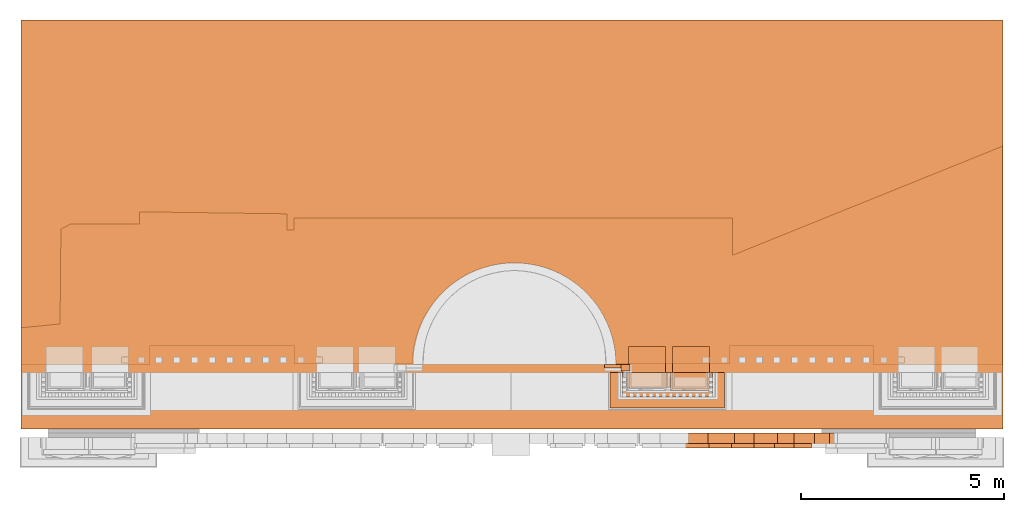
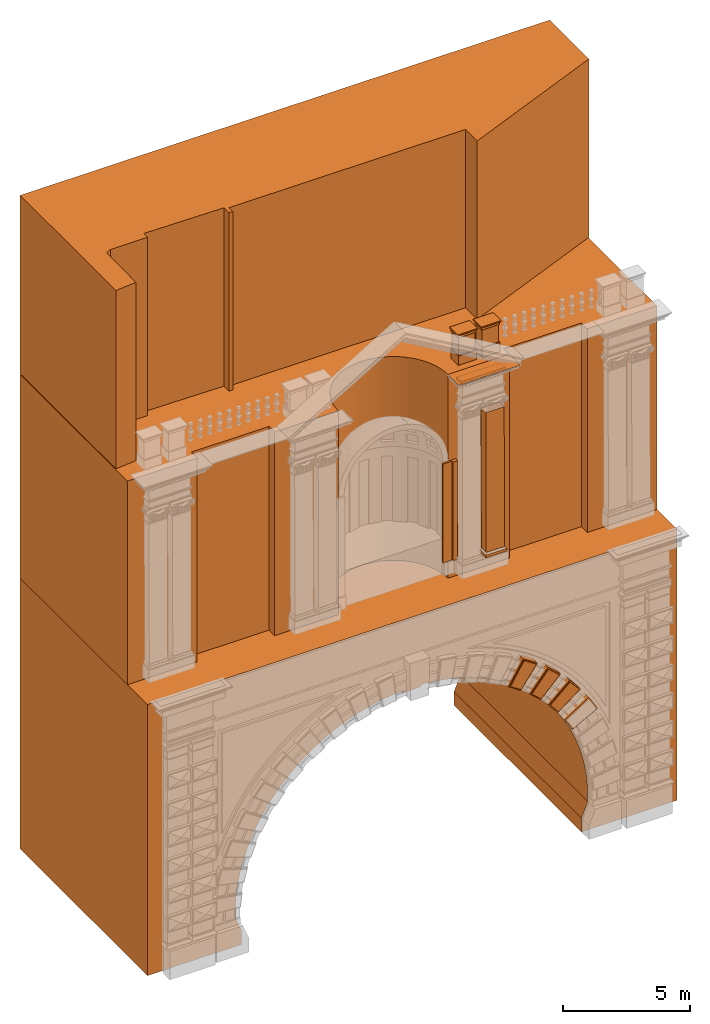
# One storey, part 10 of 44: 18 proxies.
"""IFC2X3 building model written with IfcOpenShell, lengths in metres."""

from ifc_helpers import new_model, entity, si_unit, converted_unit, derived_unit, direction, frame, frame_2d, origin, place, context, subcontext, project, spatial, polyline, circle_curve, parameter, trimmed, segment, composite_curve, rectangle, outline, extrude, faceted_brep, source, transform, mapped, material, type_object, type_shapes, element, save


model = new_model("IFC2X3")

# Units and contexts
model_context = context("Model", 3, precision=1e-05, world=origin(), true_north=direction((6.12303176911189e-17, 1.0)))
body_context = subcontext(model_context, "Body", "Model", "MODEL_VIEW")
ifc_project = project(units=[si_unit("LENGTHUNIT", "METRE"), si_unit("AREAUNIT", "SQUARE_METRE"), si_unit("VOLUMEUNIT", "CUBIC_METRE"), converted_unit("PLANEANGLEUNIT", "DEGREE", entity("IfcRatioMeasure", 0.0174532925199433), si_unit("PLANEANGLEUNIT", "RADIAN"), dimensions=[0, 0, 0, 0, 0, 0, 0]), si_unit("MASSUNIT", "GRAM", prefix="KILO"), derived_unit("MASSDENSITYUNIT", [(si_unit("MASSUNIT", "GRAM", prefix="KILO"), 1), (si_unit("LENGTHUNIT", "METRE"), -3)]), si_unit("TIMEUNIT", "SECOND"), si_unit("FREQUENCYUNIT", "HERTZ"), si_unit("THERMODYNAMICTEMPERATUREUNIT", "DEGREE_CELSIUS"), derived_unit("THERMALTRANSMITTANCEUNIT", [(si_unit("MASSUNIT", "GRAM", prefix="KILO"), 1), (si_unit("THERMODYNAMICTEMPERATUREUNIT", "KELVIN"), -1), (si_unit("TIMEUNIT", "SECOND"), -3)]), derived_unit("VOLUMETRICFLOWRATEUNIT", [(si_unit("LENGTHUNIT", "METRE"), 3), (si_unit("TIMEUNIT", "SECOND"), -1)]), si_unit("ELECTRICCURRENTUNIT", "AMPERE"), si_unit("ELECTRICVOLTAGEUNIT", "VOLT"), si_unit("POWERUNIT", "WATT"), si_unit("FORCEUNIT", "NEWTON", prefix="KILO"), si_unit("ILLUMINANCEUNIT", "LUX"), si_unit("LUMINOUSFLUXUNIT", "LUMEN"), si_unit("LUMINOUSINTENSITYUNIT", "CANDELA"), derived_unit("USERDEFINED", [(si_unit("MASSUNIT", "GRAM", prefix="KILO"), -1), (si_unit("LENGTHUNIT", "METRE"), -2), (si_unit("TIMEUNIT", "SECOND"), 3), (si_unit("LUMINOUSFLUXUNIT", "LUMEN"), 1)]), derived_unit("LINEARVELOCITYUNIT", [(si_unit("LENGTHUNIT", "METRE"), 1), (si_unit("TIMEUNIT", "SECOND"), -1)]), si_unit("PRESSUREUNIT", "PASCAL"), derived_unit("USERDEFINED", [(si_unit("LENGTHUNIT", "METRE"), -2), (si_unit("MASSUNIT", "GRAM", prefix="KILO"), 1), (si_unit("TIMEUNIT", "SECOND"), -2)])], contexts=[model_context])

# Site, building, storey
site_placement = place(None, origin())
site = spatial("IfcSite", under=ifc_project, at=site_placement, Name="Default", CompositionType="ELEMENT")
building_placement = place(site_placement, origin())
building = spatial("IfcBuilding", under=site, at=building_placement, CompositionType="ELEMENT")
storey_placement = place(building_placement, origin())
storey = spatial("IfcBuildingStorey", under=building, at=storey_placement, Name="Livello 1", CompositionType="ELEMENT", Elevation=0.0)

# Proxies
ifc_material_1 = material(Name="Piperno")
building_element_proxy_type_1 = type_object("IfcBuildingElementProxyType", Name="Piedistallo_balaustra terrazzo", PredefinedType="NOTDEFINED", material=ifc_material_1)
shared_shape_1 = source(origin(), body_context, "Body", "Brep", [
    faceted_brep([(0.046908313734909, 0.593560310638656, 1.29866715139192), (0.046908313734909, 0.593560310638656, 1.3744703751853), (0.456758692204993, 0.593560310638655, 1.3744703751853), (0.866608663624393, 0.593560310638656, 1.3744703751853), (0.866608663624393, 0.593560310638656, 1.29866715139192), (0.0819082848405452, 0.558560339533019, 1.29871212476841), (0.831608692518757, 0.558560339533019, 1.29871212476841), (0.0819082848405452, 0.558560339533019, 1.44170839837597), (0.831608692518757, 0.558560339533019, 1.44170839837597), (0.0453685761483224, 0.595100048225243, 1.39169607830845), (0.547469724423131, 0.594325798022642, 1.38754596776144), (0.456758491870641, 0.617051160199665, 1.4288318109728), (0.501016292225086, 0.605457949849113, 1.41575397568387), (0.0299184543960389, 0.610550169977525, 1.42233581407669), (0.896533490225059, 0.623485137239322, 1.43381545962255), (0.883598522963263, 0.610550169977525, 1.42233581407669), (0.0395835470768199, 0.600885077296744, 1.40799420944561), (0.456758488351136, 0.597554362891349, 1.40023980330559), (0.477394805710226, 0.627932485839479, 1.43661435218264), (0.016983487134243, 0.623485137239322, 1.43381545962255), (0.622237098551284, 0.638873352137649, 1.44170839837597), (0.911921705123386, 0.638873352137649, 1.44170839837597), (0.332552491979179, 0.638873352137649, 1.44170839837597), (0.0015952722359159, 0.638873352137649, 1.44170839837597), (0.873933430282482, 0.600885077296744, 1.40799420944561), (0.86814840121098, 0.595100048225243, 1.39169607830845), (0.866608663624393, 0.0469083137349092, 1.3744703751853), (0.866608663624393, 0.0469083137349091, 1.29866715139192), (0.831608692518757, 0.0819082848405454, 1.29871212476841), (0.831608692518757, 0.0819082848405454, 1.44170839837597), (0.889974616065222, 0.32023431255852, 1.42872239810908), (0.90037284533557, 0.325542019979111, 1.43625922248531), (0.911921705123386, 0.291279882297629, 1.44170839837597), (0.911921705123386, 0.00159527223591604, 1.44170839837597), (0.883598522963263, 0.02991845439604, 1.42233581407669), (0.896533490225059, 0.0169834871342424, 1.43381545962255), (0.873933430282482, 0.0395835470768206, 1.40799420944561), (0.86814840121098, 0.0453685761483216, 1.39169607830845), (0.456758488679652, 0.0469083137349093, 1.3744703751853), (0.046908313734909, 0.0469083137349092, 1.3744703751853), (0.046908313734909, 0.0469083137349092, 1.29866715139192), (0.0819082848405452, 0.0819082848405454, 1.29871212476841), (0.0819082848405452, 0.0819082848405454, 1.44170839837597), (0.366047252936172, 0.0461428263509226, 1.38754596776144), (0.456758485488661, 0.0234174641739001, 1.4288318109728), (0.412500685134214, 0.0350106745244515, 1.41575397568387), (0.016983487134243, 0.0169834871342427, 1.43381545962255), (0.0299184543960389, 0.02991845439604, 1.42233581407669), (0.456758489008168, 0.0429142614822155, 1.40023980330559), (0.436122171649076, 0.0125361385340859, 1.43661435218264), (0.291279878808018, 0.00159527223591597, 1.44170839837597), (0.0015952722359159, 0.00159527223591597, 1.44170839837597), (0.580964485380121, 0.00159527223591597, 1.44170839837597), (0.0395835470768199, 0.0395835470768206, 1.40799420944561), (0.0453685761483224, 0.0453685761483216, 1.39169607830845), (0.0015952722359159, 0.349188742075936, 1.44170839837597), (0.0235423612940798, 0.320234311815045, 1.42872239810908), (0.0131441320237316, 0.314926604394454, 1.43625922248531)], [[[0, 1, 2, 3, 4]], [[5, 0, 4, 6]], [[7, 5, 6, 8]], [[9, 10, 2]], [[11, 12, 13]], [[14, 15, 11]], [[16, 12, 17]], [[12, 11, 15]], [[18, 11, 19]], [[20, 21, 14]], [[22, 19, 23]], [[12, 15, 24]], [[16, 13, 12]], [[17, 10, 9]], [[25, 3, 10]], [[9, 2, 1]], [[17, 9, 16]], [[14, 18, 20]], [[25, 17, 24]], [[17, 25, 10]], [[11, 13, 19]], [[22, 18, 19]], [[24, 17, 12]], [[11, 18, 14]], [[22, 20, 18]], [[2, 10, 3]], [[4, 3, 26, 27]], [[6, 4, 27, 28]], [[8, 6, 28, 29]], [[30, 15, 14]], [[31, 21, 32, 33]], [[14, 31, 30]], [[34, 30, 35]], [[34, 36, 24, 15]], [[21, 31, 14]], [[30, 31, 35]], [[37, 26, 3, 25]], [[36, 37, 25, 24]], [[15, 30, 34]], [[31, 33, 35]], [[27, 26, 38, 39, 40]], [[28, 27, 40, 41]], [[29, 28, 41, 42]], [[37, 43, 38]], [[44, 45, 34]], [[46, 47, 44]], [[36, 45, 48]], [[45, 44, 47]], [[49, 44, 35]], [[50, 51, 46]], [[52, 35, 33]], [[45, 47, 53]], [[36, 34, 45]], [[48, 43, 37]], [[54, 39, 43]], [[37, 38, 26]], [[48, 37, 36]], [[46, 49, 50]], [[54, 48, 53]], [[48, 54, 43]], [[44, 34, 35]], [[52, 49, 35]], [[53, 48, 45]], [[44, 49, 46]], [[52, 50, 49]], [[38, 43, 39]], [[40, 39, 1, 0]], [[41, 40, 0, 5]], [[42, 41, 5, 7]], [[33, 29, 42]], [[29, 33, 8]], [[8, 33, 32]], [[42, 52, 33]], [[8, 32, 21]], [[8, 21, 7]], [[7, 21, 20]], [[7, 20, 22]], [[7, 22, 23]], [[7, 23, 55]], [[7, 55, 51]], [[51, 42, 7]], [[42, 51, 50]], [[42, 50, 52]], [[56, 47, 46]], [[57, 51, 55, 23]], [[46, 57, 56]], [[13, 56, 19]], [[13, 16, 53, 47]], [[51, 57, 46]], [[56, 57, 19]], [[9, 1, 39, 54]], [[16, 9, 54, 53]], [[47, 56, 13]], [[57, 23, 19]]]),
    faceted_brep([(0.911921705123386, 0.00159527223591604, 1.44170839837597), (0.911921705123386, 0.00159527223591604, 1.49643867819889), (0.0015952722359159, 0.00159527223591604, 1.49643867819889), (0.0015952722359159, 0.00159527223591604, 1.44170839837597), (0.911921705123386, 0.638873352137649, 1.44170839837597), (0.0015952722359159, 0.638873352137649, 1.44170839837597), (0.0015952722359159, 0.638873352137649, 1.49643867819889), (0.911921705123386, 0.638873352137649, 1.49643867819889)], [[[0, 1, 2, 3]], [[4, 5, 6, 7]], [[1, 0, 4, 7]], [[2, 1, 7, 6]], [[3, 2, 6, 5]], [[0, 3, 5, 4]]]),
    faceted_brep([(0.870792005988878, 0.01875005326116, 0.0), (0.870792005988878, 0.01875005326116, 0.44582479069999), (0.0423439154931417, 0.01875005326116, 0.44582479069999), (0.0423439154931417, 0.01875005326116, 0.0), (0.870792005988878, 0.609374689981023, 0.0), (0.0423439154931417, 0.609374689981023, 0.0), (0.0423439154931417, 0.609374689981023, 0.44582479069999), (0.870792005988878, 0.609374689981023, 0.44582479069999)], [[[0, 1, 2, 3]], [[4, 5, 6, 7]], [[1, 0, 4, 7]], [[2, 1, 7, 6]], [[3, 2, 6, 5]], [[0, 3, 5, 4]]]),
    faceted_brep([(0.0794676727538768, 0.079467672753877, 0.44582479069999), (0.834049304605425, 0.079467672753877, 0.445824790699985), (0.834049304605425, 0.079467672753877, 1.29967859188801), (0.0794676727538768, 0.079467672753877, 1.29967859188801), (0.0794676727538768, 0.561000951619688, 0.44582479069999), (0.0794676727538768, 0.561000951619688, 1.29967859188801), (0.834049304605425, 0.561000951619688, 1.29967859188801), (0.834049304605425, 0.561000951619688, 0.445824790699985)], [[[0, 1, 2, 3]], [[4, 5, 6, 7]], [[2, 1, 7, 6]], [[3, 2, 6, 5]], [[0, 3, 5, 4]], [[1, 0, 4, 7]]]),
])
type_shapes(building_element_proxy_type_1, [shared_shape_1])
for number, where, name in (
    (1, (3.89591460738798, 1.25399804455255, 23.314418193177), "Piedistallo_balaustra terrazzo:Piedistallo_balaustra terrazzo"),
    (2, (2.81591460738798, 1.25399804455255, 23.314418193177), "Piedistallo_balaustra terrazzo:Piedistallo_balaustra terrazzo"),
):
    element("IfcBuildingElementProxy", number, at=place(storey_placement, frame(where)), inside=storey, type_object=building_element_proxy_type_1, material=ifc_material_1, Name=name, ObjectType="Piedistallo_balaustra terrazzo", context=body_context, shape_type="MappedRepresentation", body=[
        mapped(shared_shape_1, transform((0.0, 0.0, 0.0), scale=1.0)),
    ])
building_element_proxy_type_2 = type_object("IfcBuildingElementProxyType", Name="Estrusione galleria", PredefinedType="NOTDEFINED")
shared_shape_2 = source(origin(), body_context, "Body", "SweptSolid", [
    extrude(outline(composite_curve([segment(trimmed(circle_curve(frame_2d((2.85795601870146, -0.00844056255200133), x_axis=(0.0, -1.0)), 8.03412329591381), [parameter(272.969747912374)], [parameter(360.0)], True, "PARAMETER"), False, "CONTINUOUS"), segment(polyline([(-5.16537768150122, -0.424677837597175), (-5.06507157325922, -0.422148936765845)]), True, "CONTINUOUS"), segment(polyline([(-5.06507157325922, -0.422148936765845), (-5.06507157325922, 0.405267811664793)]), True, "CONTINUOUS"), segment(polyline([(-5.06507157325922, 0.405267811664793), (-5.16537768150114, 0.407796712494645)]), True, "CONTINUOUS"), segment(trimmed(circle_curve(frame_2d((2.85795601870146, -0.00844056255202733), x_axis=(0.0, -1.0)), 8.03412329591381), [parameter(180.000000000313)], [parameter(267.030252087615)], True, "PARAMETER"), False, "CONTINUOUS"), segment(polyline([(2.85795601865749, 8.02568273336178), (3.12672448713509, 8.02568273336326)]), True, "CONTINUOUS"), segment(polyline([(3.12672448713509, 8.02568273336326), (3.83033878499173, 7.73907825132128)]), True, "CONTINUOUS"), segment(polyline([(3.83033878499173, 7.73907825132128), (4.49408774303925, 7.7390782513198)]), True, "CONTINUOUS"), segment(polyline([(4.49408774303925, 7.7390782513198), (4.49408774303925, 12.0972862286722)]), True, "CONTINUOUS"), segment(polyline([(4.49408774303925, 12.0972862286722), (-8.57274552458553, 12.0972862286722)]), True, "CONTINUOUS"), segment(polyline([(-8.57274552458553, 12.0972862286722), (-8.57274552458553, -12.0466428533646)]), True, "CONTINUOUS"), segment(polyline([(-8.57274552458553, -12.0466428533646), (4.49408774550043, -12.0466428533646)]), True, "CONTINUOUS"), segment(polyline([(4.49408774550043, -12.0466428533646), (4.49408774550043, -7.75595937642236)]), True, "CONTINUOUS"), segment(polyline([(4.49408774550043, -7.75595937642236), (3.8303387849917, -7.75595937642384)]), True, "CONTINUOUS"), segment(polyline([(3.8303387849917, -7.75595937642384), (3.12672448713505, -8.04256385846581)]), True, "CONTINUOUS"), segment(polyline([(3.12672448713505, -8.04256385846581), (2.8579560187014, -8.04256385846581)]), True, "CONTINUOUS")], self_intersect=False)), frame((-0.0761775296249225, -0.134467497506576, 4.49408774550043), z_axis=(0.0, -1.0, 0.0), x_axis=(0.0, 0.0, -1.0)), (0.0, 0.0, -1.0), 10.0605470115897),
])
type_shapes(building_element_proxy_type_2, [shared_shape_2])
proxy_1_placement = place(storey_placement, origin())
element("IfcBuildingElementProxy", 3, at=proxy_1_placement, inside=storey, type_object=building_element_proxy_type_2, Name="Galleria:Estrusione galleria", ObjectType="Estrusione galleria", context=body_context, shape_type="MappedRepresentation", body=[
    mapped(shared_shape_2, transform((0.0, 0.0, 0.0), scale=1.0)),
])
building_element_proxy_type_3 = type_object("IfcBuildingElementProxyType", Name="Galleria_2", PredefinedType="NOTDEFINED")
shared_shape_3 = source(origin(), body_context, "Body", "SweptSolid", [
    extrude(outline(polyline([(8.42750221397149, -4.70835692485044), (15.59662761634, -4.70835692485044), (16.7574317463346, -1.83526588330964), (-5.62842948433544, 7.2092091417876), (-8.46346742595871, 0.192244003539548), (-7.53896814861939, -0.0798220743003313), (-6.64363318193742, 2.07762909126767), (-6.37861188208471, 2.10059454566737), (-4.80239932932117, 1.46376333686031), (-4.68945808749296, 1.7433027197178), (-1.34667673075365, 0.338937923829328), (-1.50160691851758, -0.029839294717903), (-1.33715926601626, -0.0952623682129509), (-1.22389952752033, 0.185065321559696), (8.77274840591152, -3.85384261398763), (8.42750221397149, -4.70835692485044)])), frame((7.92594676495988, 3.90473148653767, 9.85344745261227), z_axis=(0.0, 0.0, 1.0), x_axis=(0.927183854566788, 0.374606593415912, 0.0)), (0.0, 0.0, 1.0), 8.59598181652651),
    extrude(outline(composite_curve([segment(polyline([(-7.13155493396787, -12.0828514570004), (1.34899207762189, -12.0828514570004)]), True, "CONTINUOUS"), segment(polyline([(1.34899207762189, -12.0828514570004), (1.34899207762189, -8.90281869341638)]), True, "CONTINUOUS"), segment(polyline([(1.34899207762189, -8.90281869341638), (0.885633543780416, -8.90281869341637)]), True, "CONTINUOUS"), segment(polyline([(0.885633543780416, -8.90281869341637), (0.885633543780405, -5.3565160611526)]), True, "CONTINUOUS"), segment(polyline([(0.885633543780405, -5.3565160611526), (1.33115184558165, -5.3565160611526)]), True, "CONTINUOUS"), segment(polyline([(1.33115184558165, -5.3565160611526), (1.33115184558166, -2.45020519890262)]), True, "CONTINUOUS"), segment(trimmed(circle_curve(frame_2d((1.34115184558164, 0.0497748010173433), x_axis=(0.0, 1.0)), 2.49999999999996), [parameter(0.229183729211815)], [parameter(179.770816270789)], True, "PARAMETER"), False, "CONTINUOUS"), segment(polyline([(1.33115184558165, 2.54975480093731), (1.33115184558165, 5.3425155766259)]), True, "CONTINUOUS"), segment(polyline([(1.33115184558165, 5.3425155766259), (0.885633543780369, 5.3425155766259)]), True, "CONTINUOUS"), segment(polyline([(0.885633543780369, 5.3425155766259), (0.885633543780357, 8.88881820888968)]), True, "CONTINUOUS"), segment(polyline([(0.885633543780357, 8.88881820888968), (1.34899207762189, 8.88881820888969)]), True, "CONTINUOUS"), segment(polyline([(1.34899207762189, 8.88881820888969), (1.34899207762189, 12.0610776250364)]), True, "CONTINUOUS"), segment(polyline([(1.34899207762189, 12.0610776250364), (-7.13155493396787, 12.0610776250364)]), True, "CONTINUOUS"), segment(polyline([(-7.13155493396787, 12.0610776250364), (-7.13155493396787, -12.0828514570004)]), True, "CONTINUOUS")], self_intersect=False)), frame((12.0828514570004, 1.34899207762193, 0.0), z_axis=(0.0, 0.0, 1.0), x_axis=(0.0, -1.0, 0.0)), (0.0, 0.0, 1.0), 9.81844987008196),
])
type_shapes(building_element_proxy_type_3, [shared_shape_3])
proxy_2_placement = place(storey_placement, frame((-12.129560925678, 1.44553250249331, 13.066833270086)))
element("IfcBuildingElementProxy", 4, at=proxy_2_placement, inside=storey, type_object=building_element_proxy_type_3, Name="Galleria_2:Galleria_2", ObjectType="Galleria_2", context=body_context, shape_type="MappedRepresentation", body=[
    mapped(shared_shape_3, transform((0.0, 0.0, 0.0), scale=1.0)),
])
proxy_3_placement = place(storey_placement, frame((4.09240601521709, -0.554467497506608, 8.12137108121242)))
element("IfcBuildingElementProxy", 5, at=proxy_3_placement, inside=storey, material=ifc_material_1, Name="Stratigrafia", context=body_context, shape_type="SweptSolid", body=[
    extrude(outline(composite_curve([segment(trimmed(circle_curve(frame_2d((-1.33916111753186, 8.57467506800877), x_axis=(1.0, 0.0)), 9.33830961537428), [parameter(276.479772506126)], [parameter(281.273302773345)], True, "PARAMETER"), True, "CONTINUOUS"), segment(polyline([(0.486377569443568, -0.58345983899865), (0.231423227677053, 0.695563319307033)]), True, "CONTINUOUS"), segment(trimmed(circle_curve(frame_2d((-1.33916111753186, 8.57467506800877), x_axis=(1.0, 0.0)), 8.03412329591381), [parameter(276.479772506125)], [parameter(281.273302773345)], True, "PARAMETER"), False, "CONTINUOUS"), segment(polyline([(-0.432490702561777, 0.591875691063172), (-0.285310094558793, -0.703979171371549)]), True, "CONTINUOUS")], self_intersect=False)), frame((0.64242282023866, 0.0, 0.730092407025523), z_axis=(0.0, 1.0, 0.0), x_axis=(0.907826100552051, 0.0, -0.419346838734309)), (0.0, 0.0, 1.0), 0.32),
])
proxy_4_placement = place(storey_placement, frame((4.16101678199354, -0.594467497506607, 8.19109902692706)))
element("IfcBuildingElementProxy", 6, at=proxy_4_placement, inside=storey, material=ifc_material_1, Name="Stratigrafia", context=body_context, shape_type="SweptSolid", body=[
    extrude(outline(composite_curve([segment(trimmed(circle_curve(frame_2d((-1.33809374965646, 8.5733681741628), x_axis=(1.0, 0.0)), 9.28496378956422), [parameter(276.782159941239)], [parameter(280.96038991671)], True, "PARAMETER"), True, "CONTINUOUS"), segment(polyline([(0.427259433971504, -0.542227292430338), (0.191822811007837, 0.638881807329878)]), True, "CONTINUOUS"), segment(trimmed(circle_curve(frame_2d((-1.33947047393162, 8.57665166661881), x_axis=(1.0, 0.0)), 8.08412329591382), [parameter(276.834147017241)], [parameter(280.918928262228)], True, "PARAMETER"), False, "CONTINUOUS"), segment(polyline([(-0.377494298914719, 0.549967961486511), (-0.241587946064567, -0.646622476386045)]), True, "CONTINUOUS")], self_intersect=False)), frame((0.574921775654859, 0.0, 0.66202914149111), z_axis=(0.0, 1.0, 0.0), x_axis=(0.907826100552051, 0.0, -0.419346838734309)), (0.0, 0.0, 1.0), 0.11),
])
proxy_5_placement = place(storey_placement, frame((5.9126971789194, -0.554467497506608, 6.45986862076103)))
element("IfcBuildingElementProxy", 7, at=proxy_5_placement, inside=storey, material=ifc_material_1, Name="Stratigrafia", context=body_context, shape_type="SweptSolid", body=[
    extrude(outline(composite_curve([segment(trimmed(circle_curve(frame_2d((-1.33916111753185, 8.57467506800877), x_axis=(1.0, 0.0)), 9.33830961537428), [parameter(276.479772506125)], [parameter(281.273302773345)], True, "PARAMETER"), True, "CONTINUOUS"), segment(polyline([(0.486377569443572, -0.58345983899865), (0.231423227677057, 0.695563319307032)]), True, "CONTINUOUS"), segment(trimmed(circle_curve(frame_2d((-1.33916111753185, 8.57467506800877), x_axis=(1.0, 0.0)), 8.03412329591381), [parameter(276.479772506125)], [parameter(281.273302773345)], True, "PARAMETER"), False, "CONTINUOUS"), segment(polyline([(-0.432490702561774, 0.591875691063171), (-0.285310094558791, -0.703979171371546)]), True, "CONTINUOUS")], self_intersect=False)), frame((0.718162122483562, 0.0, 0.675030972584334), z_axis=(0.0, 1.0, 0.0), x_axis=(0.746986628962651, 0.0, -0.664839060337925)), (0.0, 0.0, 1.0), 0.32),
])
proxy_6_placement = place(storey_placement, frame((5.98318585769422, -0.594467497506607, 6.52980767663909)))
element("IfcBuildingElementProxy", 8, at=proxy_6_placement, inside=storey, material=ifc_material_1, Name="Stratigrafia", context=body_context, shape_type="SweptSolid", body=[
    extrude(outline(composite_curve([segment(trimmed(circle_curve(frame_2d((-1.33809374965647, 8.57336817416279), x_axis=(1.0, 0.0)), 9.28496378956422), [parameter(276.782159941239)], [parameter(280.96038991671)], True, "PARAMETER"), True, "CONTINUOUS"), segment(polyline([(0.427259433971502, -0.542227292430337), (0.191822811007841, 0.638881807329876)]), True, "CONTINUOUS"), segment(trimmed(circle_curve(frame_2d((-1.33947047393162, 8.57665166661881), x_axis=(1.0, 0.0)), 8.08412329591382), [parameter(276.834147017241)], [parameter(280.918928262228)], True, "PARAMETER"), False, "CONTINUOUS"), segment(polyline([(-0.377494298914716, 0.54996796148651), (-0.241587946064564, -0.646622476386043)]), True, "CONTINUOUS")], self_intersect=False)), frame((0.649218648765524, 0.0, 0.606362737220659), z_axis=(0.0, 1.0, 0.0), x_axis=(0.746986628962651, 0.0, -0.664839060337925)), (0.0, 0.0, 1.0), 0.11),
])
proxy_7_placement = place(storey_placement, frame((6.65978239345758, -0.554467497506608, 5.42098436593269)))
element("IfcBuildingElementProxy", 9, at=proxy_7_placement, inside=storey, material=ifc_material_1, Name="Stratigrafia", context=body_context, shape_type="SweptSolid", body=[
    extrude(outline(composite_curve([segment(trimmed(circle_curve(frame_2d((-1.33916111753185, 8.57467506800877), x_axis=(1.0, 0.0)), 9.33830961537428), [parameter(276.479772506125)], [parameter(281.273302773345)], True, "PARAMETER"), True, "CONTINUOUS"), segment(polyline([(0.486377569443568, -0.583459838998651), (0.231423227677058, 0.695563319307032)]), True, "CONTINUOUS"), segment(trimmed(circle_curve(frame_2d((-1.33916111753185, 8.57467506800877), x_axis=(1.0, 0.0)), 8.03412329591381), [parameter(276.479772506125)], [parameter(281.273302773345)], True, "PARAMETER"), False, "CONTINUOUS"), segment(polyline([(-0.432490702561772, 0.591875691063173), (-0.285310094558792, -0.703979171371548)]), True, "CONTINUOUS")], self_intersect=False)), frame((0.73322890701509, 0.0, 0.624095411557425), z_axis=(0.0, 1.0, 0.0), x_axis=(0.639045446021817, 0.0, -0.769168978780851)), (0.0, 0.0, 1.0), 0.32),
])
proxy_8_placement = place(storey_placement, frame((5.06335172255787, -0.554467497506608, 7.35228536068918)))
element("IfcBuildingElementProxy", 10, at=proxy_8_placement, inside=storey, material=ifc_material_1, Name="Stratigrafia", context=body_context, shape_type="SweptSolid", body=[
    extrude(outline(composite_curve([segment(trimmed(circle_curve(frame_2d((-1.33916111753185, 8.57467506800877), x_axis=(1.0, 0.0)), 9.33830961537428), [parameter(276.479772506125)], [parameter(281.273302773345)], True, "PARAMETER"), True, "CONTINUOUS"), segment(polyline([(0.486377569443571, -0.583459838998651), (0.231423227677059, 0.695563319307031)]), True, "CONTINUOUS"), segment(trimmed(circle_curve(frame_2d((-1.33916111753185, 8.57467506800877), x_axis=(1.0, 0.0)), 8.03412329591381), [parameter(276.479772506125)], [parameter(281.273302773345)], True, "PARAMETER"), False, "CONTINUOUS"), segment(polyline([(-0.432490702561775, 0.591875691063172), (-0.28531009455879, -0.703979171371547)]), True, "CONTINUOUS")], self_intersect=False)), frame((0.686929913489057, 0.0, 0.710801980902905), z_axis=(0.0, 1.0, 0.0), x_axis=(0.838129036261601, 0.0, -0.545472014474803)), (0.0, 0.0, 1.0), 0.32),
])
proxy_9_placement = place(storey_placement, frame((5.13364275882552, -0.594467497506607, 7.42288060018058)))
element("IfcBuildingElementProxy", 11, at=proxy_9_placement, inside=storey, material=ifc_material_1, Name="Stratigrafia", context=body_context, shape_type="SweptSolid", body=[
    extrude(outline(composite_curve([segment(trimmed(circle_curve(frame_2d((-1.33809374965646, 8.5733681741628), x_axis=(1.0, 0.0)), 9.28496378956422), [parameter(276.782159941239)], [parameter(280.96038991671)], True, "PARAMETER"), True, "CONTINUOUS"), segment(polyline([(0.427259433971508, -0.54222729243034), (0.191822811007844, 0.638881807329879)]), True, "CONTINUOUS"), segment(trimmed(circle_curve(frame_2d((-1.33947047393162, 8.57665166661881), x_axis=(1.0, 0.0)), 8.08412329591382), [parameter(276.834147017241)], [parameter(280.918928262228)], True, "PARAMETER"), False, "CONTINUOUS"), segment(polyline([(-0.377494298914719, 0.54996796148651), (-0.241587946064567, -0.646622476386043)]), True, "CONTINUOUS")], self_intersect=False)), frame((0.617976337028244, 0.0, 0.641694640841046), z_axis=(0.0, 1.0, 0.0), x_axis=(0.838129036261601, 0.0, -0.545472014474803)), (0.0, 0.0, 1.0), 0.11),
])
ifc_material_2 = material(Name="Travertino")
proxy_10_placement = place(storey_placement, frame((2.62664218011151, 1.30166814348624, 13.9642305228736)))
element("IfcBuildingElementProxy", 12, at=proxy_10_placement, inside=storey, material=ifc_material_2, Name="Stratigrafia", context=body_context, shape_type="SweptSolid", body=[
    extrude(rectangle(XDim=4.7603058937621, YDim=0.151704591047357, at=frame_2d((0.0, 0.0), x_axis=(0.0, 1.0))), frame((0.0, 0.0758522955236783, 2.38015294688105), z_axis=(1.0, 0.0, 0.0), x_axis=(0.0, 1.0, 0.0)), (0.0, 0.0, 1.0), 0.219371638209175),
])
proxy_11_placement = place(storey_placement, frame((2.22478874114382, 1.37016534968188, 13.9643763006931)))
element("IfcBuildingElementProxy", 13, at=proxy_11_placement, inside=storey, material=ifc_material_2, Name="Stratigrafia", context=body_context, shape_type="SweptSolid", body=[
    extrude(rectangle(XDim=4.76016011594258, YDim=0.0832073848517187, at=frame_2d((0.0, 0.0), x_axis=(0.0, 1.0))), frame((0.0, 0.0416036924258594, 2.38008005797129), z_axis=(1.0, 0.0, 0.0), x_axis=(0.0, 1.0, 0.0)), (0.0, 0.0, 1.0), 0.401853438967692),
])
proxy_12_placement = place(storey_placement, frame((2.66576995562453, 0.661139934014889, 22.7925608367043)))
element("IfcBuildingElementProxy", 14, at=proxy_12_placement, inside=storey, material=ifc_material_1, Name="Stratigrafia", context=body_context, shape_type="SweptSolid", body=[
    extrude(rectangle(XDim=0.0245579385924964, YDim=0.602232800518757, at=frame_2d((5.55111512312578e-17, -2.16580225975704e-15), x_axis=(0.0, 1.0))), frame((0.0, 0.301116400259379, 0.0122789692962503), z_axis=(1.0, 0.0, 0.0), x_axis=(0.0, 1.0, 0.0)), (0.0, 0.0, 1.0), 2.21681438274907),
])
proxy_13_placement = place(storey_placement, frame((2.76095193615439, 0.893372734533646, 22.6666454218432)))
element("IfcBuildingElementProxy", 15, at=proxy_13_placement, inside=storey, material=ifc_material_1, Name="Stratigrafia", context=body_context, shape_type="SweptSolid", body=[
    extrude(rectangle(XDim=0.125915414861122, YDim=0.369999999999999, at=frame_2d((-6.93889390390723e-17, -2.17187379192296e-15), x_axis=(0.0, 1.0))), frame((0.0, 0.185, 0.0629577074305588), z_axis=(1.0, 0.0, 0.0), x_axis=(0.0, 1.0, 0.0)), (0.0, 0.0, 1.0), 2.02771748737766),
])
proxy_14_placement = place(storey_placement, frame((3.85190802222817, 0.813372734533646, 13.9667189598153)))
element("IfcBuildingElementProxy", 16, at=proxy_14_placement, inside=storey, material=ifc_material_1, Name="Stratigrafia", context=body_context, shape_type="SweptSolid", body=[
    extrude(rectangle(XDim=0.129364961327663, YDim=0.45, at=frame_2d((0.0, 0.0), x_axis=(0.0, 1.0))), frame((0.0, 0.225, 0.0646824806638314), z_axis=(1.0, 0.0, 0.0), x_axis=(0.0, 1.0, 0.0)), (0.0, 0.0, 1.0), 0.956412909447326),
])
proxy_15_placement = place(storey_placement, frame((3.88778797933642, 0.883372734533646, 14.1670132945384)))
element("IfcBuildingElementProxy", 17, at=proxy_15_placement, inside=storey, material=ifc_material_1, Name="Stratigrafia", context=body_context, shape_type="SweptSolid", body=[
    extrude(rectangle(XDim=6.74573124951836, YDim=0.38, at=frame_2d((1.2490009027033e-16, 0.0), x_axis=(0.0, 1.0))), frame((0.00875481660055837, 0.19, 3.37285426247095), z_axis=(0.999996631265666, 0.0, 0.00259566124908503), x_axis=(0.0, 1.0, 0.0)), (0.0, -0.00259566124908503, 0.999996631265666), 0.838920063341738),
])
proxy_16_placement = place(storey_placement, frame((2.36430915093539, 0.391034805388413, 23.0427079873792)))
element("IfcBuildingElementProxy", 18, at=proxy_16_placement, inside=storey, material=ifc_material_1, Name="Stratigrafia", context=body_context, shape_type="SweptSolid", body=[
    extrude(rectangle(XDim=0.0172851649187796, YDim=0.872337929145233, at=frame_2d((5.55111512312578e-17, 2.16580225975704e-15), x_axis=(0.0, 1.0))), frame((0.0, 0.436168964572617, 0.00864258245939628), z_axis=(1.0, 0.0, 0.0), x_axis=(0.0, -1.0, 0.0)), (0.0, 0.0, 1.0), 2.80849522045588),
])

save(model, "model.ifc")
